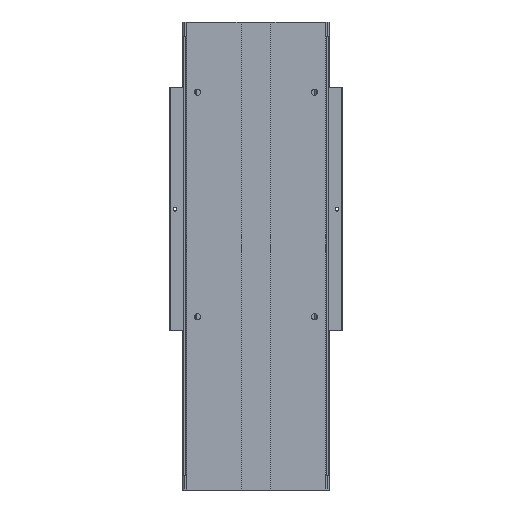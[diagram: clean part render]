
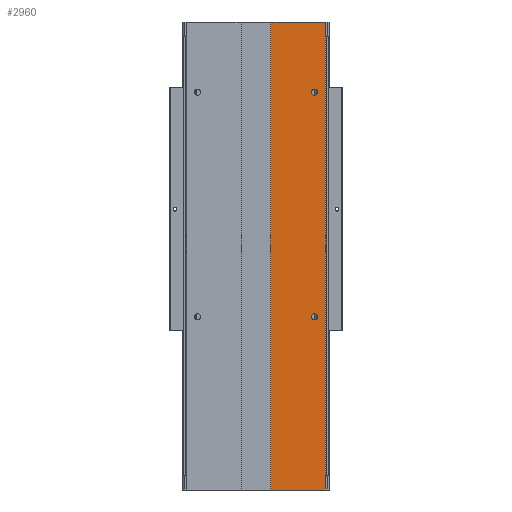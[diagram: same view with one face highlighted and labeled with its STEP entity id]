
A CAD part, front view. The second image highlights one B-rep face of the part: STEP entity #2960.
In plain terms, the highlighted planar face has unit normal (0, -1, 0).
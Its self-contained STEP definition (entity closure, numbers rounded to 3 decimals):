
#1491 = EDGE_LOOP ( 'NONE', ( #3025, #2942 ) ) ;
#1793 = EDGE_CURVE ( 'NONE', #1794, #1795, #7777, .T. ) ;
#1794 = VERTEX_POINT ( 'NONE', #7768 ) ;
#1795 = VERTEX_POINT ( 'NONE', #7767 ) ;
#1841 = VERTEX_POINT ( 'NONE', #7926 ) ;
#1897 = EDGE_CURVE ( 'NONE', #1841, #1898, #8083, .T. ) ;
#1898 = VERTEX_POINT ( 'NONE', #8078 ) ;
#2504 = VERTEX_POINT ( 'NONE', #9250 ) ;
#2506 = EDGE_CURVE ( 'NONE', #2517, #2504, #9249, .T. ) ;
#2517 = VERTEX_POINT ( 'NONE', #9285 ) ;
#2942 = ORIENTED_EDGE ( 'NONE', *, *, #1897, .T. ) ;
#2943 = EDGE_LOOP ( 'NONE', ( #2944, #2947, #2950, #2952 ) ) ;
#2944 = ORIENTED_EDGE ( 'NONE', *, *, #2945, .F. ) ;
#2945 = EDGE_CURVE ( 'NONE', #2946, #2504, #10002, .T. ) ;
#2946 = VERTEX_POINT ( 'NONE', #9998 ) ;
#2947 = ORIENTED_EDGE ( 'NONE', *, *, #2948, .F. ) ;
#2948 = EDGE_CURVE ( 'NONE', #2949, #2946, #9997, .T. ) ;
#2949 = VERTEX_POINT ( 'NONE', #9993 ) ;
#2950 = ORIENTED_EDGE ( 'NONE', *, *, #2951, .T. ) ;
#2951 = EDGE_CURVE ( 'NONE', #2949, #2517, #10059, .T. ) ;
#2952 = ORIENTED_EDGE ( 'NONE', *, *, #2506, .T. ) ;
#2960 = ADVANCED_FACE ( 'NONE', ( #10055, #10054, #10053 ), #10052, .T. ) ;
#2961 = EDGE_LOOP ( 'NONE', ( #2962, #2964 ) ) ;
#2962 = ORIENTED_EDGE ( 'NONE', *, *, #2963, .T. ) ;
#2963 = EDGE_CURVE ( 'NONE', #1795, #1794, #10047, .T. ) ;
#2964 = ORIENTED_EDGE ( 'NONE', *, *, #1793, .T. ) ;
#3025 = ORIENTED_EDGE ( 'NONE', *, *, #3026, .T. ) ;
#3026 = EDGE_CURVE ( 'NONE', #1898, #1841, #10095, .T. ) ;
#7767 = CARTESIAN_POINT ( 'NONE',  ( 62.5, -0.5, -311.7 ) ) ;
#7768 = CARTESIAN_POINT ( 'NONE',  ( 62.5, -0.5, -318.3 ) ) ;
#7769 = DIRECTION ( 'NONE',  ( 0., 0., 1. ) ) ;
#7770 = DIRECTION ( 'NONE',  ( 0., 1., 0. ) ) ;
#7771 = CARTESIAN_POINT ( 'NONE',  ( 62.5, -0.5, -315. ) ) ;
#7772 = AXIS2_PLACEMENT_3D ( 'NONE', #7771, #7770, #7769 ) ;
#7777 = CIRCLE ( 'NONE', #7772, 3.3 ) ;
#7926 = CARTESIAN_POINT ( 'NONE',  ( 62.5, -0.5, -78.3 ) ) ;
#8078 = CARTESIAN_POINT ( 'NONE',  ( 62.5, -0.5, -71.7 ) ) ;
#8079 = DIRECTION ( 'NONE',  ( 0., 0., 1. ) ) ;
#8080 = DIRECTION ( 'NONE',  ( 0., 1., 0. ) ) ;
#8081 = CARTESIAN_POINT ( 'NONE',  ( 62.5, -0.5, -75. ) ) ;
#8082 = AXIS2_PLACEMENT_3D ( 'NONE', #8081, #8080, #8079 ) ;
#8083 = CIRCLE ( 'NONE', #8082, 3.3 ) ;
#9246 = DIRECTION ( 'NONE',  ( 0., 0., 1. ) ) ;
#9247 = VECTOR ( 'NONE', #9246, 1000. ) ;
#9248 = CARTESIAN_POINT ( 'NONE',  ( 74., -0.5, -500. ) ) ;
#9249 = LINE ( 'NONE', #9248, #9247 ) ;
#9250 = CARTESIAN_POINT ( 'NONE',  ( 74., -0.5, 0. ) ) ;
#9285 = CARTESIAN_POINT ( 'NONE',  ( 74., -0.5, -500. ) ) ;
#9993 = CARTESIAN_POINT ( 'NONE',  ( 16., -0.5, -500. ) ) ;
#9994 = DIRECTION ( 'NONE',  ( 0., 0., 1. ) ) ;
#9995 = VECTOR ( 'NONE', #9994, 1000. ) ;
#9996 = CARTESIAN_POINT ( 'NONE',  ( 16., -0.5, -500. ) ) ;
#9997 = LINE ( 'NONE', #9996, #9995 ) ;
#9998 = CARTESIAN_POINT ( 'NONE',  ( 16., -0.5, 0. ) ) ;
#9999 = DIRECTION ( 'NONE',  ( 1., 0., 0. ) ) ;
#10000 = VECTOR ( 'NONE', #9999, 1000. ) ;
#10001 = CARTESIAN_POINT ( 'NONE',  ( 0.031, -0.5, 0. ) ) ;
#10002 = LINE ( 'NONE', #10001, #10000 ) ;
#10043 = DIRECTION ( 'NONE',  ( 0., 0., 1. ) ) ;
#10044 = DIRECTION ( 'NONE',  ( 0., 1., 0. ) ) ;
#10045 = CARTESIAN_POINT ( 'NONE',  ( 62.5, -0.5, -315. ) ) ;
#10046 = AXIS2_PLACEMENT_3D ( 'NONE', #10045, #10044, #10043 ) ;
#10047 = CIRCLE ( 'NONE', #10046, 3.3 ) ;
#10048 = DIRECTION ( 'NONE',  ( 0., 0., -1. ) ) ;
#10049 = DIRECTION ( 'NONE',  ( 0., -1., 0. ) ) ;
#10050 = CARTESIAN_POINT ( 'NONE',  ( 0.031, -0.5, -500. ) ) ;
#10051 = AXIS2_PLACEMENT_3D ( 'NONE', #10050, #10049, #10048 ) ;
#10052 = PLANE ( 'NONE',  #10051 ) ;
#10053 = FACE_OUTER_BOUND ( 'NONE', #2943, .T. ) ;
#10054 = FACE_BOUND ( 'NONE', #1491, .T. ) ;
#10055 = FACE_BOUND ( 'NONE', #2961, .T. ) ;
#10056 = DIRECTION ( 'NONE',  ( 1., 0., 0. ) ) ;
#10057 = VECTOR ( 'NONE', #10056, 1000. ) ;
#10058 = CARTESIAN_POINT ( 'NONE',  ( 0.031, -0.5, -500. ) ) ;
#10059 = LINE ( 'NONE', #10058, #10057 ) ;
#10091 = DIRECTION ( 'NONE',  ( 0., 0., 1. ) ) ;
#10092 = DIRECTION ( 'NONE',  ( 0., 1., 0. ) ) ;
#10093 = CARTESIAN_POINT ( 'NONE',  ( 62.5, -0.5, -75. ) ) ;
#10094 = AXIS2_PLACEMENT_3D ( 'NONE', #10093, #10092, #10091 ) ;
#10095 = CIRCLE ( 'NONE', #10094, 3.3 ) ;
